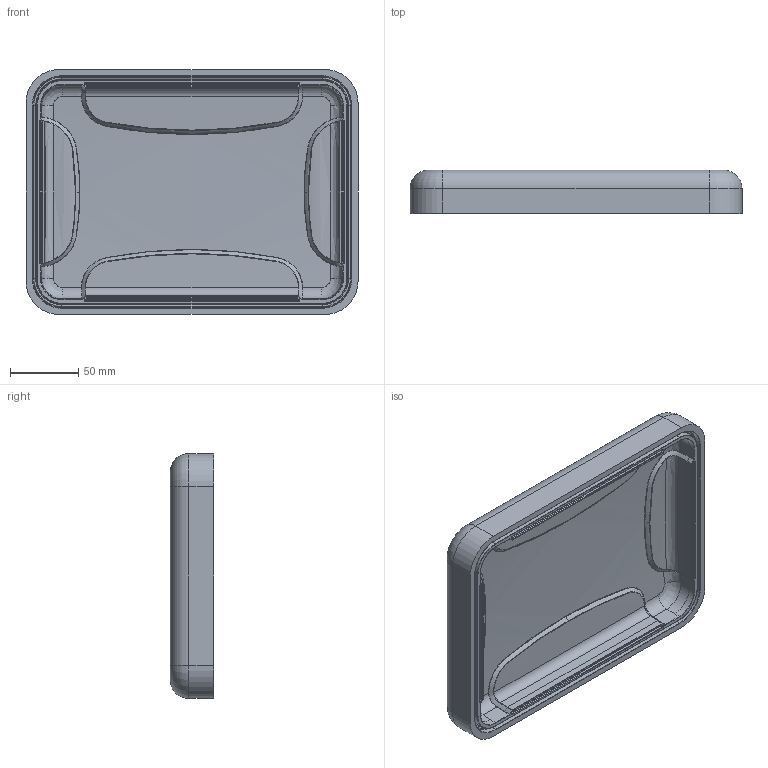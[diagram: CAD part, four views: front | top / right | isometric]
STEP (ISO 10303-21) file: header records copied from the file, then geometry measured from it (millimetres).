
FILE_DESCRIPTION (( 'STEP AP203' ), '1' );
FILE_NAME ('NANUK_904_Top_INNER SURFS_Step.STEP', '2015-04-16T19:25:11', ( 'Ben laptop' ), ( 'Microsoft' ), 'SwSTEP 2.0', 'SolidWorks 2014', '' );
FILE_SCHEMA (( 'CONFIG_CONTROL_DESIGN' ));
Length unit declared in the file: inch
Products named in the file (1): NANUK_904_Top_INNER SURFS_Step
Bounding box: 242.98 x 31.75 x 179.23 mm (x, y, z)
Volume: 616182.5 mm3; surface area: 133894.3 mm2
Topology: 1 solids, 1 shells, 744 faces, 1871 edges, 1158 vertices
Faces by surface type: bspline 350, plane 259, cylinder 103, sphere 16, torus 12, cone 4
Entity records: 72208 total; most frequent: CARTESIAN_POINT 56964, ORIENTED_EDGE 3710, DIRECTION 2183, EDGE_CURVE 1855, VERTEX_POINT 1158, LINE 889, VECTOR 889, EDGE_LOOP 789
